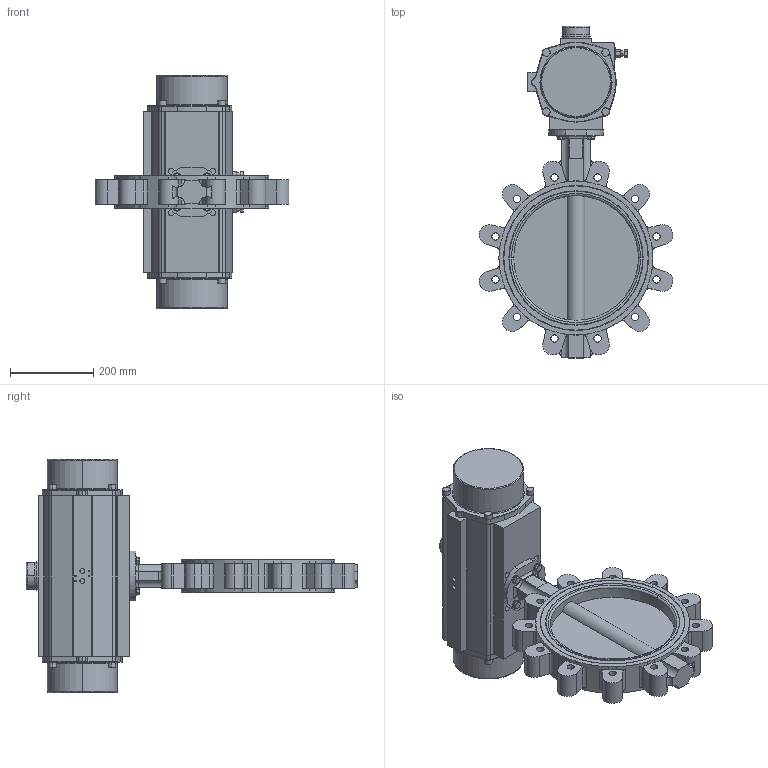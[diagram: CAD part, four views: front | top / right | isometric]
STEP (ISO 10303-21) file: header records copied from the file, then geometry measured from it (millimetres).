
FILE_DESCRIPTION (( 'STEP AP214' ), '1' );
FILE_NAME ('67354.step', '2020-10-23T12:38:47', ( '' ), ( '' ), 'SwSTEP 2.0', 'SolidWorks 2019', '' );
FILE_SCHEMA (( 'AUTOMOTIVE_DESIGN' ));
Length unit declared in the file: millimetre
Products named in the file (6): 67354; Achtkantreduktion 36-22 mm; TL20-0300_M01; SR1200-V36_02; 6kt-Schr DIN 933_M10x30; U-Scheibe DIN 125 A_M10
Assembly tree (11 placements, depth 2):
  67354
    TL20-0300_M01
    SR1200-V36_02
    U-Scheibe DIN 125 A_M10  x4
    6kt-Schr DIN 933_M10x30  x4
    Achtkantreduktion 36-22 mm
Bounding box: 465.01 x 797 x 560 mm (x, y, z)
Volume: 24795673.8 mm3; surface area: 1143757.8 mm2
Topology: 13 solids, 13 shells, 777 faces, 1939 edges, 1242 vertices
Faces by surface type: cylinder 349, plane 337, cone 49, torus 42
Entity records: 24152 total; most frequent: CARTESIAN_POINT 4682, DIRECTION 3827, ORIENTED_EDGE 3470, EDGE_CURVE 1735, AXIS2_PLACEMENT_3D 1473, VERTEX_POINT 1122, LINE 881, VECTOR 881
